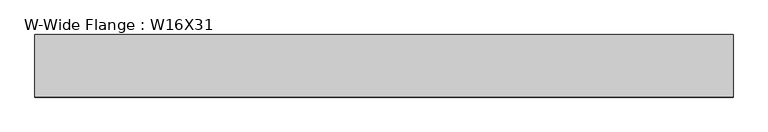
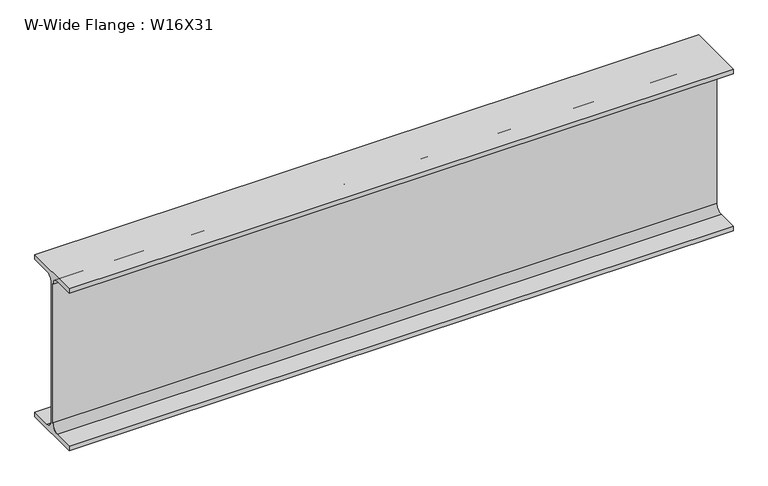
"""IFC4 building model written with IfcOpenShell, lengths in millimetres: beam geometry, W-Wide Flange : W16X31."""

import ifcopenshell
import ifcopenshell.guid

model = None  # the IFC model being written
_history = None  # IfcOwnerHistory: only IFC2X3 demands one
_inside = {}  # id of a spatial element -> (the spatial element, [elements in it])
_under = {}  # id of a project, library or spatial element -> (it, [spatial elements below it])
_declared = {}  # id of a project -> (the project, [libraries it declares])
_typed = {}  # id of a type object -> (the type object, [elements of that type])
_made_of = {}  # id of a material, layer set ... -> (it, [elements and type objects made of it])


def new_model(schema):
    """Start an empty IFC model of exactly this schema.

    Asked for "IFC4X3", IfcOpenShell would pick the latest addendum, in which some entities
    have other attributes; the version numbers below select the first issue.
    IFC2X3 requires an IfcOwnerHistory on every rooted entity: one is made here for all.
    """
    global model, _history
    if schema == "IFC4X3":
        model = ifcopenshell.file(schema_version=(4, 3, 0, 0))
    else:
        model = ifcopenshell.file(schema=schema)
    _inside.clear()
    _under.clear()
    _declared.clear()
    _typed.clear()
    _made_of.clear()
    _history = None
    if model.schema == "IFC2X3":
        org = make("IfcOrganization", Name="unknown")
        user = make(
            "IfcPersonAndOrganization",
            ThePerson=make("IfcPerson", FamilyName="unknown"),
            TheOrganization=org,
        )
        app = make(
            "IfcApplication",
            ApplicationDeveloper=org,
            Version="unknown",
            ApplicationFullName="unknown",
            ApplicationIdentifier="unknown",
        )
        _history = make(
            "IfcOwnerHistory",
            OwningUser=user,
            OwningApplication=app,
            ChangeAction="ADDED",
            CreationDate=0,
        )
    return model


def make(cls, **values):
    """One entity of the class cls with the attributes given. An attribute that is None is left unset."""
    return model.create_entity(
        cls, **{name: value for name, value in values.items() if value is not None}
    )


def rooted(cls, **values):
    """An entity with a GlobalId (a new one), such as an element, a storey or a relation."""
    return make(cls, GlobalId=ifcopenshell.guid.new(), OwnerHistory=_history, **values)


def si_unit(unit_type, name, prefix=None):
    """IfcSIUnit, for example si_unit("LENGTHUNIT", "METRE", prefix="MILLI")."""
    return make("IfcSIUnit", UnitType=unit_type, Prefix=prefix, Name=name)


def assignment(units):
    """IfcUnitAssignment: the units of a project."""
    return None if units is None else make("IfcUnitAssignment", Units=units)


def point(xyz):
    """IfcCartesianPoint."""
    return None if xyz is None else make("IfcCartesianPoint", Coordinates=xyz)


def direction(xyz):
    """IfcDirection."""
    return None if xyz is None else make("IfcDirection", DirectionRatios=xyz)


def frame(location, z_axis=None, x_axis=None):
    """IfcAxis2Placement3D, a coordinate frame: its origin and axes. An axis left out is left unset."""
    return make(
        "IfcAxis2Placement3D",
        Location=point(location),
        Axis=direction(z_axis),
        RefDirection=direction(x_axis),
    )


def frame_2d(location, x_axis=None):
    """IfcAxis2Placement2D, a coordinate frame in the plane: its origin and x axis."""
    return make(
        "IfcAxis2Placement2D", Location=point(location), RefDirection=direction(x_axis)
    )


def origin():
    """The frame at (0, 0, 0) with its axes left unset."""
    return frame((0.0, 0.0, 0.0))


def place(relative_to, where):
    """IfcLocalPlacement: puts the frame where relative to a parent placement (None: the world)."""
    return make(
        "IfcLocalPlacement", PlacementRelTo=relative_to, RelativePlacement=where
    )


def context(
    kind, dimensions, precision=None, world=None, true_north=None, identifier=None
):
    """IfcGeometricRepresentationContext, for example the 3D "Model" context."""
    return make(
        "IfcGeometricRepresentationContext",
        ContextIdentifier=identifier,
        ContextType=kind,
        CoordinateSpaceDimension=dimensions,
        Precision=precision,
        WorldCoordinateSystem=world,
        TrueNorth=true_north,
    )


def project(units=None, contexts=None):
    """IfcProject with its units and contexts."""
    return rooted(
        "IfcProject",
        Name="project",
        RepresentationContexts=contexts,
        UnitsInContext=assignment(units),
    )


def spatial(cls, under=None, at=None, **own):
    """A site, building, storey or space (cls), placed at a placement, below another one or the project."""
    s = rooted(cls, ObjectPlacement=at, **own)
    if under is not None:
        _under.setdefault(under.id(), (under, []))[1].append(s)
    return s


def polyline(points):
    """IfcPolyline through the points."""
    return make("IfcPolyline", Points=[point(p) for p in points])


def circle_curve(where, radius):
    """IfcCircle in the frame where."""
    return make("IfcCircle", Position=where, Radius=radius)


def trimmed(basis, trim1, trim2, sense, master):
    """IfcTrimmedCurve: the piece of a basis curve between two trims."""
    return make(
        "IfcTrimmedCurve",
        BasisCurve=basis,
        Trim1=trim1,
        Trim2=trim2,
        SenseAgreement=sense,
        MasterRepresentation=master,
    )


def segment(curve, same_sense, transition):
    """IfcCompositeCurveSegment."""
    return make(
        "IfcCompositeCurveSegment",
        Transition=transition,
        SameSense=same_sense,
        ParentCurve=curve,
    )


def composite_curve(segments, self_intersect=None):
    """IfcCompositeCurve: segments joined end to end."""
    return make("IfcCompositeCurve", Segments=segments, SelfIntersect=self_intersect)


def outline(outer, holes=None, kind="AREA"):
    """IfcArbitraryClosedProfileDef: a profile drawn as a closed curve; with holes, ...WithVoids."""
    if holes is None:
        return make("IfcArbitraryClosedProfileDef", ProfileType=kind, OuterCurve=outer)
    return make(
        "IfcArbitraryProfileDefWithVoids",
        ProfileType=kind,
        OuterCurve=outer,
        InnerCurves=holes,
    )


def extrude(swept, where, along, depth):
    """IfcExtrudedAreaSolid: the profile swept, set in the frame where, extruded along a direction by depth."""
    return make(
        "IfcExtrudedAreaSolid",
        SweptArea=swept,
        Position=where,
        ExtrudedDirection=direction(along),
        Depth=depth,
    )


def shape(context_of_items, identifier, shape_type, items):
    """IfcShapeRepresentation: the items that make up one representation, for example the "Body"."""
    return make(
        "IfcShapeRepresentation",
        ContextOfItems=context_of_items,
        RepresentationIdentifier=identifier,
        RepresentationType=shape_type,
        Items=items,
    )


def source(mapping_origin, context_of_items, identifier, shape_type, items):
    """IfcRepresentationMap: a shape defined once, which mapped items show again and again."""
    return make(
        "IfcRepresentationMap",
        MappingOrigin=mapping_origin,
        MappedRepresentation=shape(context_of_items, identifier, shape_type, items),
    )


def transform(
    local_origin,
    x_axis=None,
    y_axis=None,
    z_axis=None,
    scale=None,
    scale2=None,
    scale3=None,
    uniform=True,
):
    """IfcCartesianTransformationOperator3D, or its non-uniform kind. x_axis, y_axis, z_axis: its Axis1, 2, 3."""
    if uniform:
        return make(
            "IfcCartesianTransformationOperator3D",
            Axis1=direction(x_axis),
            Axis2=direction(y_axis),
            LocalOrigin=point(local_origin),
            Scale=scale,
            Axis3=direction(z_axis),
        )
    return make(
        "IfcCartesianTransformationOperator3DnonUniform",
        Axis1=direction(x_axis),
        Axis2=direction(y_axis),
        LocalOrigin=point(local_origin),
        Scale=scale,
        Axis3=direction(z_axis),
        Scale2=scale2,
        Scale3=scale3,
    )


def mapped(mapping_source, mapping_target):
    """IfcMappedItem: shows the shape of a source again, moved by a transform."""
    return make(
        "IfcMappedItem", MappingSource=mapping_source, MappingTarget=mapping_target
    )


def made_of(thing, what):
    """Note that an element or type object is made of a material, layer set ...; save() writes the relation."""
    if what is not None:
        _made_of.setdefault(what.id(), (what, []))[1].append(thing)
    return thing


def element(
    cls,
    number,
    at=None,
    inside=None,
    cuts=None,
    type_object=None,
    material=None,
    context=None,
    identifier="Body",
    shape_type=None,
    held_by="IfcProductDefinitionShape",
    body=None,
    shapes=None,
    **own,
):
    """One element of the class cls, such as IfcWall. Its Tag is "e" and its number.

    at: its placement. inside: the storey or other place that contains it. cuts: it is an
    opening in that element (IfcRelVoidsElement). A single representation is given by context,
    identifier, shape_type and body (its items); several are given by shapes. held_by: the class
    of the entity that holds the representations. save() writes the other relations.
    """
    e = rooted(cls, Tag="e%d" % number, ObjectPlacement=at, **own)
    if body is not None:
        shapes = [shape(context, identifier, shape_type, body)]
    if shapes is not None:
        e.Representation = make(held_by, Representations=shapes)
    if inside is not None:
        _inside.setdefault(inside.id(), (inside, []))[1].append(e)
    if cuts is not None:
        rooted(
            "IfcRelVoidsElement", RelatingBuildingElement=cuts, RelatedOpeningElement=e
        )
    if type_object is not None:
        _typed.setdefault(type_object.id(), (type_object, []))[1].append(e)
    return made_of(e, material)


def aggregate(whole, parts):
    """IfcRelAggregates: a whole, such as a stair, and the parts it consists of."""
    return rooted("IfcRelAggregates", RelatingObject=whole, RelatedObjects=parts)


def save(model, path):
    """Write the relations noted so far, then the file.

    IfcRelAggregates (storeys below a building ...), IfcRelContainedInSpatialStructure (elements
    in a storey), IfcRelDefinesByType, IfcRelAssociatesMaterial and IfcRelDeclares: one each for
    every whole, place, type object, material and project.
    """
    for whole, parts in _under.values():
        aggregate(whole, parts)
    for where, things in _inside.values():
        rooted(
            "IfcRelContainedInSpatialStructure",
            RelatedElements=things,
            RelatingStructure=where,
        )
    for kind, things in _typed.values():
        rooted("IfcRelDefinesByType", RelatedObjects=things, RelatingType=kind)
    for what, things in _made_of.values():
        rooted("IfcRelAssociatesMaterial", RelatedObjects=things, RelatingMaterial=what)
    for by, libraries in _declared.values():
        rooted("IfcRelDeclares", RelatingContext=by, RelatedDefinitions=libraries)
    model.write(path)


def w_wide_flange_w16x31_dc2757f3(model_context):
    return source(origin(), model_context, "Body", "SweptSolid", [
        extrude(outline(composite_curve([segment(polyline([(70.231, -190.754), (70.231, -201.93), (-70.231, -201.93), (-70.231, -190.754), (-20.8915, -190.754)]), True, "CONTINUOUS"), segment(trimmed(circle_curve(frame_2d((-20.8915, -173.355)), 17.399), [point((-20.8915, -190.754))], [point((-3.4925, -173.355))], True, "CARTESIAN"), True, "CONTINUOUS"), segment(polyline([(-3.4925, -173.355), (-3.4925, 173.355)]), True, "CONTINUOUS"), segment(trimmed(circle_curve(frame_2d((-20.8915, 173.355)), 17.399), [point((-3.4925, 173.355))], [point((-20.8915, 190.754))], True, "CARTESIAN"), True, "CONTINUOUS"), segment(polyline([(-20.8915, 190.754), (-70.231, 190.754), (-70.231, 201.93), (70.231, 201.93), (70.231, 190.754), (20.8915, 190.754)]), True, "CONTINUOUS"), segment(trimmed(circle_curve(frame_2d((20.8915, 173.355)), 17.399), [point((20.8915, 190.754))], [point((3.4925, 173.355))], True, "CARTESIAN"), True, "CONTINUOUS"), segment(polyline([(3.4925, 173.355), (3.4925, -173.355)]), True, "CONTINUOUS"), segment(trimmed(circle_curve(frame_2d((20.8915, -173.355)), 17.399), [point((3.4925, -173.355))], [point((20.8915, -190.754))], True, "CARTESIAN"), True, "CONTINUOUS"), segment(polyline([(20.8915, -190.754), (70.231, -190.754)]), True, "CONTINUOUS")], self_intersect=False)), frame((-768.7703128, 0.0, 0.0), z_axis=(1.0, 0.0, 0.0), x_axis=(0.0, 1.0, 0.0)), (0.0, 0.0, 1.0), 1567.4788026),
    ])


if __name__ == "__main__":
    model = new_model("IFC4")
    model_context = context("Model", 3, world=origin())
    ifc_project = project(units=[si_unit("LENGTHUNIT", "METRE", prefix="MILLI")], contexts=[model_context])
    site = spatial("IfcSite", under=ifc_project)
    building = spatial("IfcBuilding", under=site)
    placement = place(None, origin())
    w_wide_flange_w16x31_shape = w_wide_flange_w16x31_dc2757f3(model_context)
    element("IfcBeam", 1, ObjectType="W-Wide Flange : W16X31", at=placement, inside=building, context=model_context, shape_type="MappedRepresentation", body=[
        mapped(w_wide_flange_w16x31_shape, transform((0.0, 0.0, 0.0), x_axis=(1.0, 0.0, 0.0), y_axis=(0.0, 1.0, 0.0), z_axis=(0.0, 0.0, 1.0))),
    ])
    save(model, "model.ifc")
